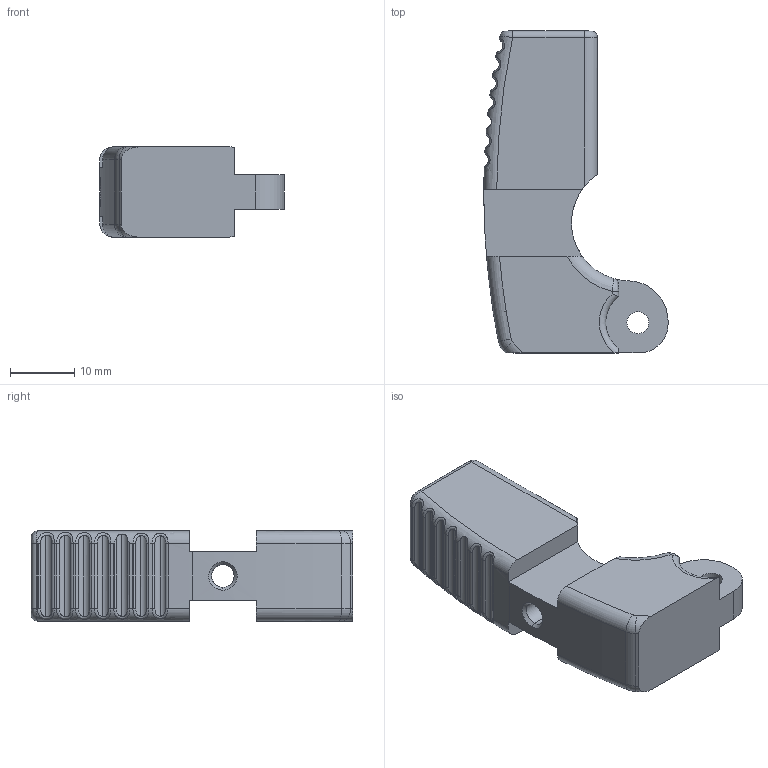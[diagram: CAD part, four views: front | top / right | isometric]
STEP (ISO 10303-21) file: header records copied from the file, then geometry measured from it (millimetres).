
FILE_DESCRIPTION (( 'STEP AP203' ), '1' );
FILE_NAME ('feeder_arm.STEP', '2014-11-19T22:46:02', ( 'Robban' ), ( '' ), 'SwSTEP 2.0', 'SolidWorks 2013', '' );
FILE_SCHEMA (( 'CONFIG_CONTROL_DESIGN' ));
Length unit declared in the file: millimetre
Products named in the file (1): feeder_arm
Bounding box: 28.63 x 50 x 14 mm (x, y, z)
Volume: 8912.3 mm3; surface area: 4463.6 mm2
Topology: 1 solids, 1 shells, 147 faces, 386 edges, 241 vertices
Faces by surface type: cylinder 72, plane 37, bspline 23, torus 12, cone 3
Entity records: 7584 total; most frequent: CARTESIAN_POINT 4076, ORIENTED_EDGE 772, DIRECTION 662, EDGE_CURVE 386, AXIS2_PLACEMENT_3D 253, VERTEX_POINT 241, VECTOR 156, LINE 156
